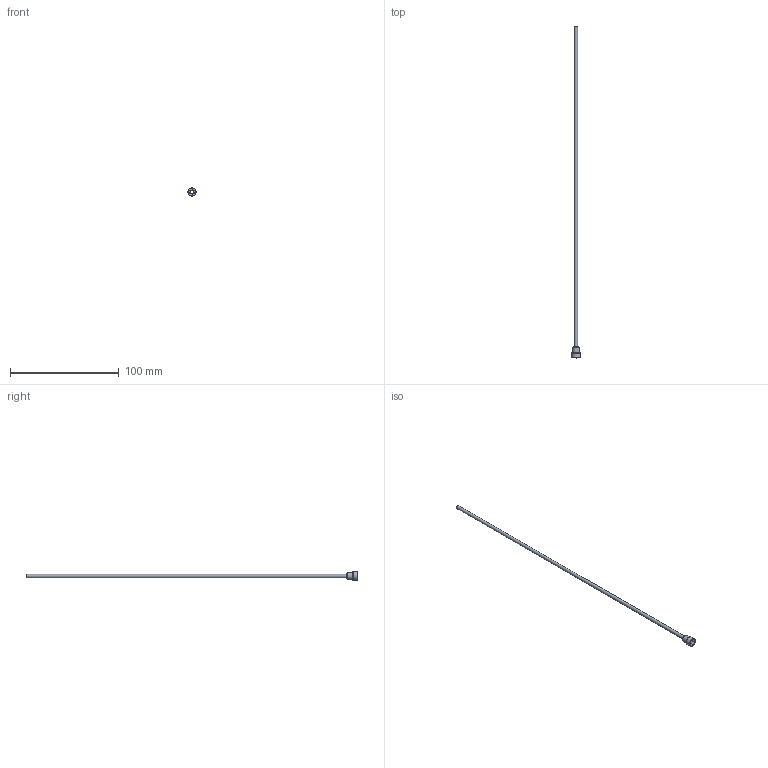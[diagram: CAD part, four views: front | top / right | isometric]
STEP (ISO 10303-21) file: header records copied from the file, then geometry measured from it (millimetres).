
FILE_DESCRIPTION(/* description */ (''),/* implementation_level */ '2;1');
FILE_NAME(/* name */ 'C:/Users/drich/Desktop/JR125T-12 v2.step',/* time_stamp */ '2019-12-30T13:02:07-06:00',/* author */ (''),/* organization */ (''),/* preprocessor_version */ 'ST-DEVELOPER v18',/* originating_system */ 'Autodesk Translation Framework v8.12.0.6',/* authorisation */ '');
FILE_SCHEMA (('AUTOMOTIVE_DESIGN { 1 0 10303 214 3 1 1 }'));
Length unit declared in the file: inch
Products named in the file (1): JR125T-12
Bounding box: 7.8 x 304.8 x 7.8 mm (x, y, z)
Volume: 860.6 mm3; surface area: 5857.2 mm2
Topology: 1 solids, 1 shells, 19 faces, 47 edges, 33 vertices
Faces by surface type: plane 11, cylinder 4, torus 3, cone 1
Full cylindrical faces by diameter (mm): 2.743 x1, 3.15 x1, 6.243 x1, 7.798 x1
Entity records: 624 total; most frequent: DIRECTION 111, CARTESIAN_POINT 100, ORIENTED_EDGE 94, EDGE_CURVE 47, AXIS2_PLACEMENT_3D 44, VERTEX_POINT 33, EDGE_LOOP 24, CIRCLE 24
